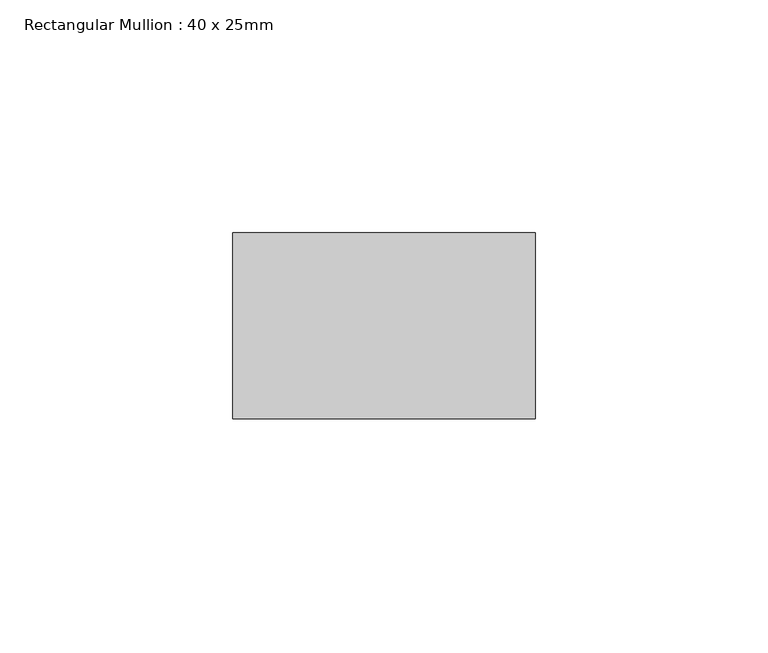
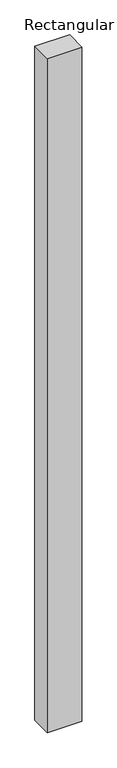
"""IFC4 building model written with IfcOpenShell, lengths in millimetres: member geometry, Rectangular Mullion : 40 x 25mm."""

from ifc_helpers import new_model, si_unit, frame, origin, place, context, project, spatial, polyline, outline, extrude, source, transform, mapped, element, save


def rectangular_mullion_40_x_25mm_d41e0b43(model_context):
    return source(origin(), model_context, "Body", "SweptSolid", [
        extrude(outline(polyline([(0.0, -20.0), (0.0, -60.0), (-65.0, -60.0), (-65.0, -20.0), (0.0, -20.0)])), frame((0.0, 0.0, -1335.6448271), z_axis=(0.0, 0.0, 1.0), x_axis=(1.0, 0.0, 0.0)), (0.0, 0.0, 1.0), 1335.6448271),
    ])


if __name__ == "__main__":
    model = new_model("IFC4")
    model_context = context("Model", 3, world=origin())
    ifc_project = project(units=[si_unit("LENGTHUNIT", "METRE", prefix="MILLI")], contexts=[model_context])
    site = spatial("IfcSite", under=ifc_project)
    building = spatial("IfcBuilding", under=site)
    placement = place(None, origin())
    rectangular_mullion_40_x_25mm_shape = rectangular_mullion_40_x_25mm_d41e0b43(model_context)
    element("IfcMember", 1, ObjectType="Rectangular Mullion : 40 x 25mm", at=placement, inside=building, context=model_context, shape_type="MappedRepresentation", body=[
        mapped(rectangular_mullion_40_x_25mm_shape, transform((0.0, 0.0, 0.0), x_axis=(1.0, 0.0, 0.0), y_axis=(0.0, 1.0, 0.0), z_axis=(0.0, 0.0, 1.0))),
    ])
    save(model, "model.ifc")
